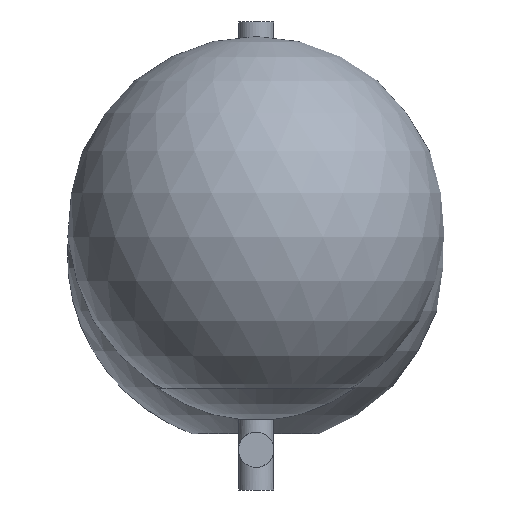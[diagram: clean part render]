
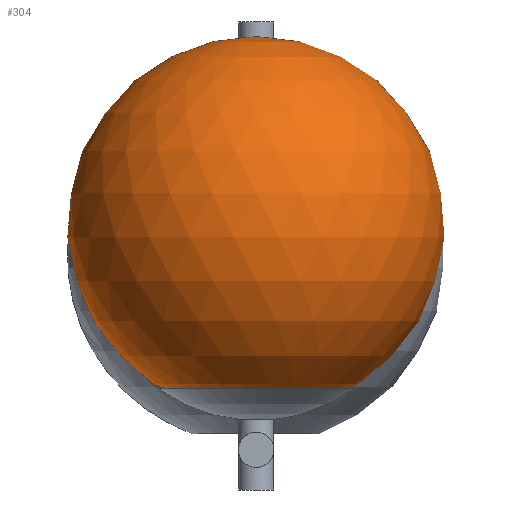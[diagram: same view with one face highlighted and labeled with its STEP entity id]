
A CAD part, front view. The second image highlights one B-rep face of the part: STEP entity #304.
In plain terms, the highlighted spherical face has radius 75 mm.
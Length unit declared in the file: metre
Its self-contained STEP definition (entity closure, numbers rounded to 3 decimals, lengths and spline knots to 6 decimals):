
#304 = ADVANCED_FACE( '', ( #409 ), #410, .T. );
#409 = FACE_OUTER_BOUND( '', #525, .T. );
#410 = SPHERICAL_SURFACE( '', #526, 0.075 );
#525 = EDGE_LOOP( '', ( #711 ) );
#526 = AXIS2_PLACEMENT_3D( '', #712, #713, #714 );
#711 = ORIENTED_EDGE( '', *, *, #781, .F. );
#712 = CARTESIAN_POINT( '', ( 0., 0., 0. ) );
#713 = DIRECTION( '', ( 0., 0., -1. ) );
#714 = DIRECTION( '', ( -1., 0., 0. ) );
#781 = EDGE_CURVE( '', #861, #861, #862, .T. );
#861 = VERTEX_POINT( '', #1167 );
#862 = CIRCLE( '', #1168, 0.025 );
#1167 = CARTESIAN_POINT( '', ( -0.025, 0., -0.070711 ) );
#1168 = AXIS2_PLACEMENT_3D( '', #1278, #1279, #1280 );
#1278 = CARTESIAN_POINT( '', ( 0., 0., -0.070711 ) );
#1279 = DIRECTION( '', ( 0., 0., -1. ) );
#1280 = DIRECTION( '', ( -1., 0., 0. ) );
